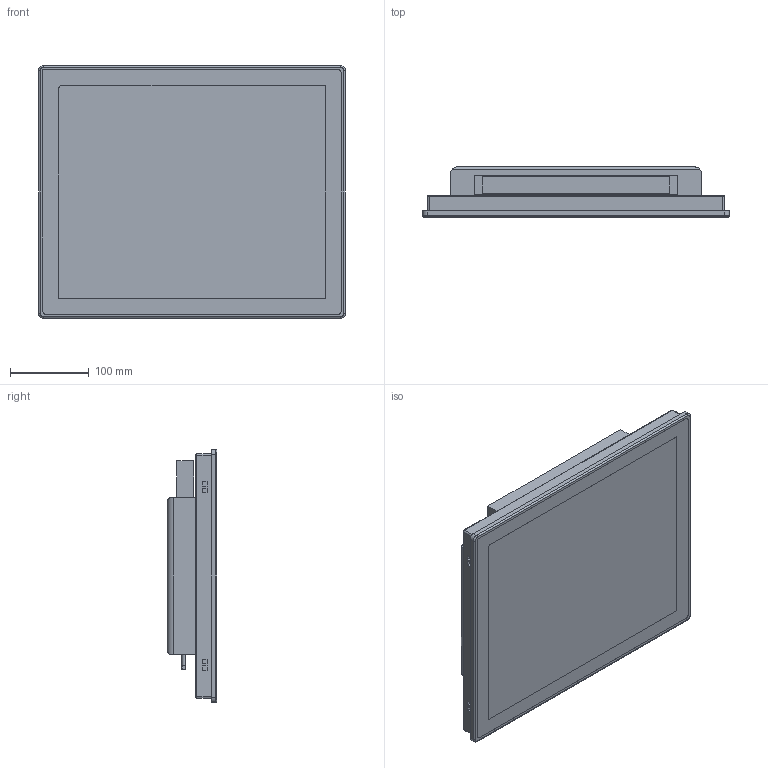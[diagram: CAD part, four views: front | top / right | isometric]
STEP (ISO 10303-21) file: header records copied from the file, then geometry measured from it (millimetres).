
FILE_DESCRIPTION(/* description */ ('Unknown'),/* implementation_level */ '2;1');
FILE_NAME(/* name */ 'ePX TH CI I5-6200U 17''''',/* time_stamp */ '2022-06-17T11:25:29+02:00',/* author */ ('Unknown'),/* organization */ ('Unknown'),/* preprocessor_version */ 'ST-DEVELOPER v18.1',/* originating_system */ 'Solid Edge',/* authorisation */ 'Unknown');
FILE_SCHEMA (('AUTOMOTIVE_DESIGN {1 0 10303 214 3 1 1}'));
Length unit declared in the file: millimetre
Products named in the file (1): ePX TH CI I5-6200U 17''
Bounding box: 389 x 63.2 x 320 mm (x, y, z)
Volume: 5682863.9 mm3; surface area: 351863.5 mm2
Topology: 1 solids, 1 shells, 145 faces, 337 edges, 216 vertices
Faces by surface type: plane 98, cylinder 39, torus 4, sphere 4
Full cylindrical faces by diameter (mm): 3 x9, 5 x8
Entity records: 4910 total; most frequent: DIRECTION 680, CARTESIAN_POINT 650, ORIENTED_EDGE 604, EDGE_CURVE 302, AXIS2_PLACEMENT_3D 232, LINE 216, VECTOR 216, VERTEX_POINT 202
